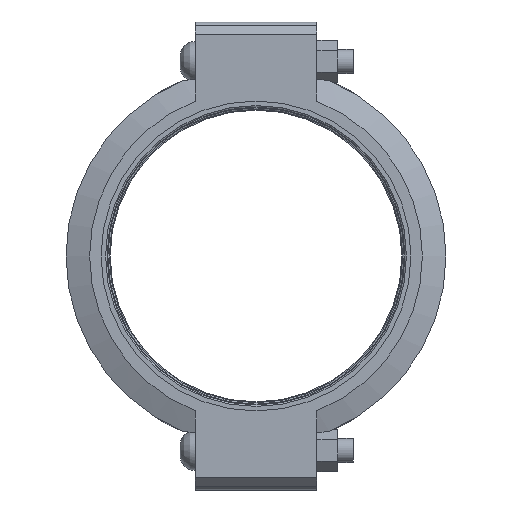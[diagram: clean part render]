
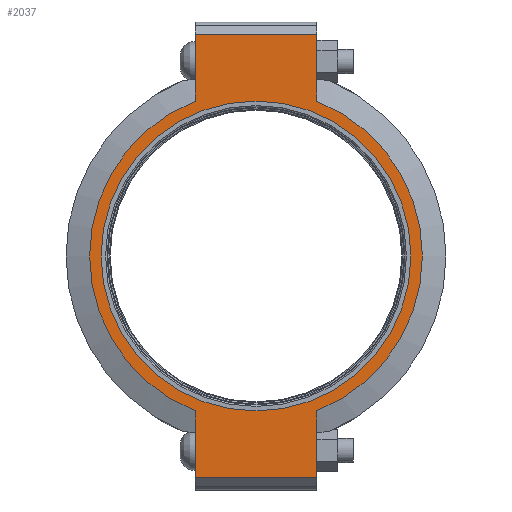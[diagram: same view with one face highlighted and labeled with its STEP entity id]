
A CAD part, left-side view. The second image highlights one B-rep face of the part: STEP entity #2037.
In plain terms, the highlighted planar face has unit normal (-1, 0, 0) as drawn and (0, 0, 1) by its records, which use the part's own axes.
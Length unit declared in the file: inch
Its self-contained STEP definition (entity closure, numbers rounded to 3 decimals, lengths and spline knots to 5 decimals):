
#146=LINE('',#3584,#239);
#157=LINE('',#3635,#250);
#163=LINE('',#3661,#256);
#165=LINE('',#3664,#258);
#166=LINE('',#3669,#259);
#167=LINE('',#3670,#260);
#239=VECTOR('',#2923,0.3937);
#250=VECTOR('',#2954,0.3937);
#256=VECTOR('',#2972,0.3937);
#258=VECTOR('',#2976,0.3937);
#259=VECTOR('',#2981,0.3937);
#260=VECTOR('',#2982,0.3937);
#323=FACE_BOUND('',#576,.T.);
#366=PLANE('',#2383);
#453=FACE_OUTER_BOUND('',#575,.T.);
#575=EDGE_LOOP('',(#1710,#1711,#1712,#1713,#1714,#1715,#1716,#1717));
#576=EDGE_LOOP('',(#1718));
#760=CIRCLE('',#2384,6.84375);
#761=CIRCLE('',#2385,6.84375);
#762=CIRCLE('',#2386,6.375);
#932=VERTEX_POINT('',#3581);
#933=VERTEX_POINT('',#3583);
#950=VERTEX_POINT('',#3630);
#951=VERTEX_POINT('',#3634);
#958=VERTEX_POINT('',#3656);
#959=VERTEX_POINT('',#3660);
#960=VERTEX_POINT('',#3666);
#961=VERTEX_POINT('',#3668);
#962=VERTEX_POINT('',#3672);
#1187=EDGE_CURVE('',#933,#932,#146,.T.);
#1208=EDGE_CURVE('',#951,#950,#157,.T.);
#1219=EDGE_CURVE('',#959,#958,#163,.T.);
#1221=EDGE_CURVE('',#959,#932,#165,.T.);
#1222=EDGE_CURVE('',#958,#960,#760,.T.);
#1223=EDGE_CURVE('',#960,#961,#166,.T.);
#1224=EDGE_CURVE('',#951,#961,#167,.T.);
#1225=EDGE_CURVE('',#950,#933,#761,.T.);
#1226=EDGE_CURVE('',#962,#962,#762,.T.);
#1710=ORIENTED_EDGE('',*,*,#1221,.F.);
#1711=ORIENTED_EDGE('',*,*,#1219,.T.);
#1712=ORIENTED_EDGE('',*,*,#1222,.T.);
#1713=ORIENTED_EDGE('',*,*,#1223,.T.);
#1714=ORIENTED_EDGE('',*,*,#1224,.F.);
#1715=ORIENTED_EDGE('',*,*,#1208,.T.);
#1716=ORIENTED_EDGE('',*,*,#1225,.T.);
#1717=ORIENTED_EDGE('',*,*,#1187,.T.);
#1718=ORIENTED_EDGE('',*,*,#1226,.T.);
#2037=ADVANCED_FACE('',(#453,#323),#366,.T.);
#2383=AXIS2_PLACEMENT_3D('',#3665,#2977,#2978);
#2384=AXIS2_PLACEMENT_3D('',#3667,#2979,#2980);
#2385=AXIS2_PLACEMENT_3D('',#3671,#2983,#2984);
#2386=AXIS2_PLACEMENT_3D('',#3673,#2985,#2986);
#2923=DIRECTION('',(1.,0.,0.));
#2954=DIRECTION('',(1.,0.,0.));
#2972=DIRECTION('',(-1.,0.,0.));
#2976=DIRECTION('',(0.,-1.,0.));
#2977=DIRECTION('center_axis',(0.,0.,1.));
#2978=DIRECTION('ref_axis',(-1.,0.,0.));
#2979=DIRECTION('center_axis',(0.,0.,1.));
#2980=DIRECTION('ref_axis',(1.,0.,0.));
#2981=DIRECTION('',(-1.,0.,0.));
#2982=DIRECTION('',(0.,1.,0.));
#2983=DIRECTION('center_axis',(0.,0.,1.));
#2984=DIRECTION('ref_axis',(1.,0.,0.));
#2985=DIRECTION('center_axis',(0.,0.,-1.));
#2986=DIRECTION('ref_axis',(1.,0.,0.));
#3581=CARTESIAN_POINT('',(9.125,-2.5,1.315));
#3583=CARTESIAN_POINT('',(6.37079,-2.5,1.315));
#3584=CARTESIAN_POINT('',(-9.625,-2.5,1.315));
#3630=CARTESIAN_POINT('',(-6.37079,-2.5,1.315));
#3634=CARTESIAN_POINT('',(-9.125,-2.5,1.315));
#3635=CARTESIAN_POINT('',(-9.625,-2.5,1.315));
#3656=CARTESIAN_POINT('',(6.37079,2.5,1.315));
#3660=CARTESIAN_POINT('',(9.125,2.5,1.315));
#3661=CARTESIAN_POINT('',(9.625,2.5,1.315));
#3664=CARTESIAN_POINT('',(9.125,-1.25,1.315));
#3665=CARTESIAN_POINT('Origin',(0.,0.,
1.315));
#3666=CARTESIAN_POINT('',(-6.37079,2.5,1.315));
#3667=CARTESIAN_POINT('Origin',(0.,0.,1.315));
#3668=CARTESIAN_POINT('',(-9.125,2.5,1.315));
#3669=CARTESIAN_POINT('',(9.625,2.5,1.315));
#3670=CARTESIAN_POINT('',(-9.125,1.25,1.315));
#3671=CARTESIAN_POINT('Origin',(0.,0.,1.315));
#3672=CARTESIAN_POINT('',(-6.375,0.,1.315));
#3673=CARTESIAN_POINT('Origin',(0.,0.,1.315));
